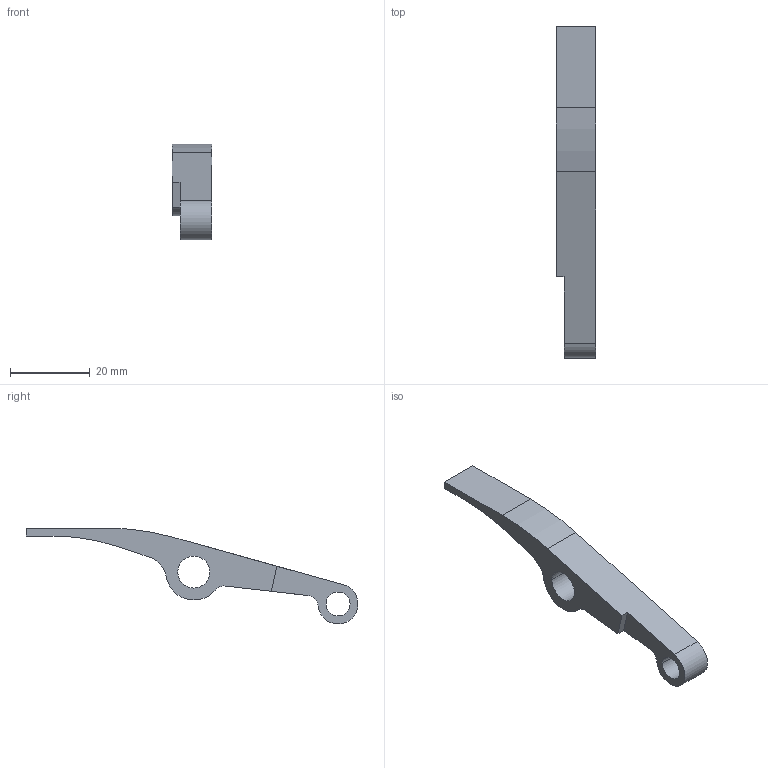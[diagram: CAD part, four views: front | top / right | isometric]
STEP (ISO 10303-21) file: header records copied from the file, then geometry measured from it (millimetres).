
FILE_DESCRIPTION(('CATIA V5 STEP Exchange'),'2;1');
FILE_NAME('C:\Users\user\Desktop\antivol\béta\3D\beta version metal v2\levier.stp','2016-01-25T22:50:17+00:00',('none'),('none'),'CATIA Version 5 Release 18 GA (IN-10)','CATIA V5 STEP AP203','none');
FILE_SCHEMA(('CONFIG_CONTROL_DESIGN'));
Length unit declared in the file: millimetre
Products named in the file (1): levier
Bounding box: 10 x 83.11 x 23.99 mm (x, y, z)
Volume: 4628.6 mm3; surface area: 3155.5 mm2
Topology: 1 solids, 1 shells, 21 faces, 57 edges, 39 vertices
Faces by surface type: cylinder 11, plane 10
Entity records: 695 total; most frequent: CARTESIAN_POINT 116, ORIENTED_EDGE 114, DIRECTION 95, EDGE_CURVE 57, AXIS2_PLACEMENT_3D 42, VERTEX_POINT 38, VECTOR 35, LINE 35
